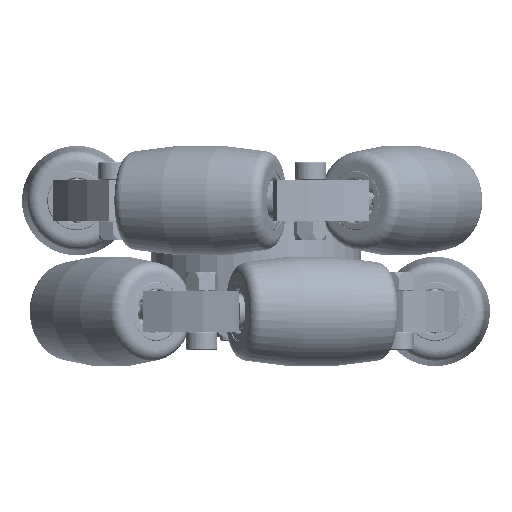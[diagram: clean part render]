
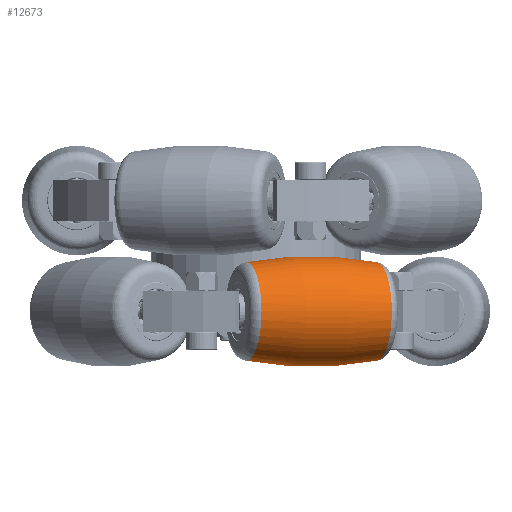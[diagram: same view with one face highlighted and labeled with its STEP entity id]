
A CAD part, left-side view. The second image highlights one B-rep face of the part: STEP entity #12673.
In plain terms, the highlighted toroidal (fillet/blend) face has major radius 90.072 mm and minor radius 105.072 mm.
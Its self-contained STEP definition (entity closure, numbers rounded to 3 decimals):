
#606 = CARTESIAN_POINT ( 'NONE',  ( -18.529, 48.5, 13.353 ) ) ;
#607 = CIRCLE ( 'NONE', #665, 13.353 ) ;
#616 = CARTESIAN_POINT ( 'NONE',  ( 18.529, 48.5, -13.353 ) ) ;
#618 = CARTESIAN_POINT ( 'NONE',  ( 18.529, 48.5, 0. ) ) ;
#628 = CARTESIAN_POINT ( 'NONE',  ( 18.529, 48.5, 13.353 ) ) ;
#637 = FACE_OUTER_BOUND ( 'NONE', #12712, .T. ) ;
#653 = TOROIDAL_SURFACE ( 'NONE', #698, -90.072, 105.072 ) ;
#662 = DIRECTION ( 'NONE',  ( -1., 0., 0. ) ) ;
#663 = DIRECTION ( 'NONE',  ( 0., 0., 1. ) ) ;
#664 = DIRECTION ( 'NONE',  ( -1., 0., 0. ) ) ;
#665 = AXIS2_PLACEMENT_3D ( 'NONE', #618, #664, #663 ) ;
#697 = CARTESIAN_POINT ( 'NONE',  ( 0., 48.5, 0. ) ) ;
#698 = AXIS2_PLACEMENT_3D ( 'NONE', #697, #662, #699 ) ;
#699 = DIRECTION ( 'NONE',  ( 0., 0., 1. ) ) ;
#838 = DIRECTION ( 'NONE',  ( 0., 0., -1. ) ) ;
#839 = DIRECTION ( 'NONE',  ( 1., 0., 0. ) ) ;
#840 = CARTESIAN_POINT ( 'NONE',  ( -18.529, 48.5, 0. ) ) ;
#841 = AXIS2_PLACEMENT_3D ( 'NONE', #840, #839, #838 ) ;
#846 = CIRCLE ( 'NONE', #841, 13.353 ) ;
#1007 = CARTESIAN_POINT ( 'NONE',  ( -18.529, 48.5, -13.353 ) ) ;
#1126 = DIRECTION ( 'NONE',  ( 0., -1., 0. ) ) ;
#1129 = AXIS2_PLACEMENT_3D ( 'NONE', #1177, #1176, #1175 ) ;
#1169 = DIRECTION ( 'NONE',  ( 0., 0., -1. ) ) ;
#1170 = AXIS2_PLACEMENT_3D ( 'NONE', #1180, #1126, #1169 ) ;
#1175 = DIRECTION ( 'NONE',  ( 0., 0., 1. ) ) ;
#1176 = DIRECTION ( 'NONE',  ( 0., 1., 0. ) ) ;
#1177 = CARTESIAN_POINT ( 'NONE',  ( 0., 48.5, 90.072 ) ) ;
#1179 = CIRCLE ( 'NONE', #1170, 105.072 ) ;
#1180 = CARTESIAN_POINT ( 'NONE',  ( 0., 48.5, -90.072 ) ) ;
#1184 = CIRCLE ( 'NONE', #1129, 105.072 ) ;
#12655 = VERTEX_POINT ( 'NONE', #616 ) ;
#12656 = VERTEX_POINT ( 'NONE', #628 ) ;
#12658 = EDGE_CURVE ( 'NONE', #12656, #12655, #607, .T. ) ;
#12666 = VERTEX_POINT ( 'NONE', #606 ) ;
#12673 = ADVANCED_FACE ( 'NONE', ( #637 ), #653, .T. ) ;
#12712 = EDGE_LOOP ( 'NONE', ( #12815, #12729, #12859, #12856 ) ) ;
#12721 = EDGE_CURVE ( 'NONE', #12813, #12666, #846, .T. ) ;
#12729 = ORIENTED_EDGE ( 'NONE', *, *, #12855, .T. ) ;
#12813 = VERTEX_POINT ( 'NONE', #1007 ) ;
#12815 = ORIENTED_EDGE ( 'NONE', *, *, #12658, .T. ) ;
#12855 = EDGE_CURVE ( 'NONE', #12655, #12813, #1184, .T. ) ;
#12856 = ORIENTED_EDGE ( 'NONE', *, *, #12857, .F. ) ;
#12857 = EDGE_CURVE ( 'NONE', #12656, #12666, #1179, .T. ) ;
#12859 = ORIENTED_EDGE ( 'NONE', *, *, #12721, .T. ) ;
